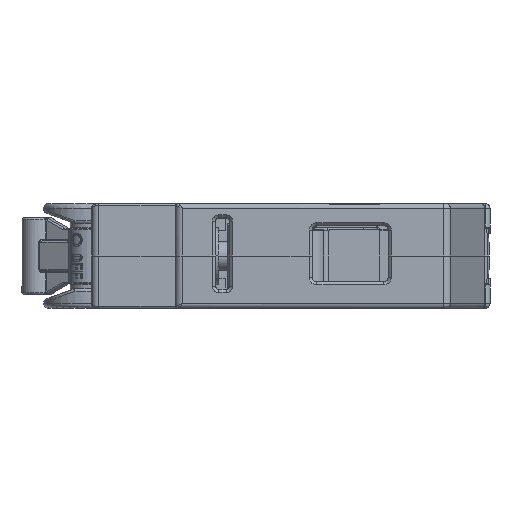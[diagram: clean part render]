
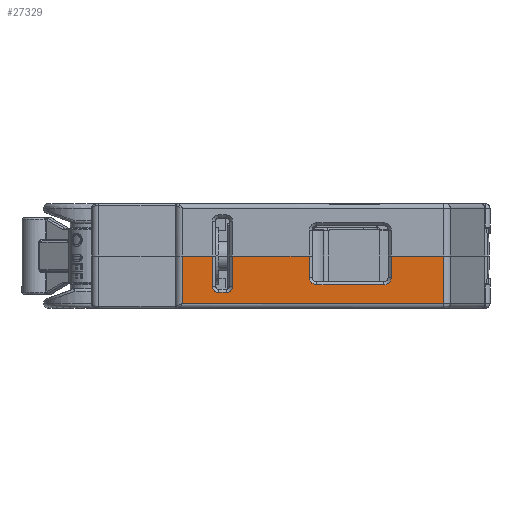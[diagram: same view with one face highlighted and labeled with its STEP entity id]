
A CAD part, left-side view. The second image highlights one B-rep face of the part: STEP entity #27329.
In plain terms, the highlighted planar face has unit normal (-1, 0, 0).
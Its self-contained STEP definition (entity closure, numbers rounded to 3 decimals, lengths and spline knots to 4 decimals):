
#9099=DIRECTION('',(0.,1.,0.));
#9100=VECTOR('',#9099,0.199);
#9101=CARTESIAN_POINT('',(-1.73,-0.056,0.));
#9102=LINE('',#9101,#9100);
#9347=DIRECTION('',(0.,1.,0.));
#9348=VECTOR('',#9347,0.505);
#9349=CARTESIAN_POINT('',(-1.73,-0.691,0.));
#9350=LINE('',#9349,#9348);
#9501=DIRECTION('',(0.,1.,0.));
#9502=VECTOR('',#9501,0.3436);
#9503=CARTESIAN_POINT('',(-1.73,-1.5746,0.));
#9504=LINE('',#9503,#9502);
#9683=DIRECTION('',(0.,0.,1.));
#9684=VECTOR('',#9683,0.139);
#9685=CARTESIAN_POINT('',(-1.73,-0.691,
-0.139));
#9686=LINE('',#9685,#9684);
#9687=CARTESIAN_POINT('',(-1.73,-0.742,-0.139));
#9688=DIRECTION('',(1.,0.,0.));
#9689=DIRECTION('',(0.,0.,-1.));
#9690=AXIS2_PLACEMENT_3D('',#9687,#9688,#9689);
#9692=DIRECTION('',(0.,1.,0.));
#9693=VECTOR('',#9692,0.438);
#9694=CARTESIAN_POINT('',(-1.73,-1.18,
-0.19));
#9695=LINE('',#9694,#9693);
#9696=CARTESIAN_POINT('',(-1.73,-1.18,-0.139));
#9697=DIRECTION('',(1.,0.,0.));
#9698=DIRECTION('',(0.,-1.,0.));
#9699=AXIS2_PLACEMENT_3D('',#9696,#9697,#9698);
#9701=DIRECTION('',(0.,0.,-1.));
#9702=VECTOR('',#9701,0.139);
#9703=CARTESIAN_POINT('',(-1.73,-1.231,0.));
#9704=LINE('',#9703,#9702);
#9705=DIRECTION('',(0.,0.,1.));
#9706=VECTOR('',#9705,0.313);
#9707=CARTESIAN_POINT('',(-1.73,-1.5746,-0.313));
#9708=LINE('',#9707,#9706);
#9709=DIRECTION('',(0.,1.,0.));
#9710=VECTOR('',#9709,1.7176);
#9711=CARTESIAN_POINT('',(-1.73,-1.5746,-0.313));
#9712=LINE('',#9711,#9710);
#9713=DIRECTION('',(0.,0.,-1.));
#9714=VECTOR('',#9713,0.313);
#9715=CARTESIAN_POINT('',(-1.73,0.143,0.));
#9716=LINE('',#9715,#9714);
#9717=DIRECTION('',(0.,0.,1.));
#9718=VECTOR('',#9717,0.2);
#9719=CARTESIAN_POINT('',(-1.73,-0.056,
-0.2));
#9720=LINE('',#9719,#9718);
#9721=CARTESIAN_POINT('',(-1.73,-0.096,-0.2));
#9722=DIRECTION('',(1.,0.,0.));
#9723=DIRECTION('',(0.,0.,-1.));
#9724=AXIS2_PLACEMENT_3D('',#9721,#9722,#9723);
#9726=DIRECTION('',(0.,1.,0.));
#9727=VECTOR('',#9726,0.05);
#9728=CARTESIAN_POINT('',(-1.73,-0.146,
-0.24));
#9729=LINE('',#9728,#9727);
#9730=CARTESIAN_POINT('',(-1.73,-0.146,-0.2));
#9731=DIRECTION('',(1.,0.,0.));
#9732=DIRECTION('',(0.,-1.,0.));
#9733=AXIS2_PLACEMENT_3D('',#9730,#9731,#9732);
#9735=DIRECTION('',(0.,0.,-1.));
#9736=VECTOR('',#9735,0.2);
#9737=CARTESIAN_POINT('',(-1.73,-0.186,0.));
#9738=LINE('',#9737,#9736);
#16154=CARTESIAN_POINT('',(-1.73,0.143,0.));
#16156=VERTEX_POINT('',#16154);
#16157=CARTESIAN_POINT('',(-1.73,0.143,-0.313));
#16158=VERTEX_POINT('',#16157);
#16163=CARTESIAN_POINT('',(-1.73,-1.5746,-0.313));
#16164=VERTEX_POINT('',#16163);
#16223=CARTESIAN_POINT('',(-1.73,-1.5746,0.));
#16225=VERTEX_POINT('',#16223);
#16235=CARTESIAN_POINT('',(-1.73,-0.056,
-0.2));
#16236=CARTESIAN_POINT('',(-1.73,-0.056,0.));
#16237=VERTEX_POINT('',#16235);
#16238=VERTEX_POINT('',#16236);
#16239=CARTESIAN_POINT('',(-1.73,-0.096,-0.24));
#16240=VERTEX_POINT('',#16239);
#16241=CARTESIAN_POINT('',(-1.73,-0.146,
-0.24));
#16242=VERTEX_POINT('',#16241);
#16243=CARTESIAN_POINT('',(-1.73,-0.186,-0.2));
#16244=VERTEX_POINT('',#16243);
#16246=CARTESIAN_POINT('',(-1.73,-0.186,0.));
#16248=VERTEX_POINT('',#16246);
#16290=CARTESIAN_POINT('',(-1.73,-0.691,
-0.139));
#16291=CARTESIAN_POINT('',(-1.73,-0.691,0.));
#16292=VERTEX_POINT('',#16290);
#16293=VERTEX_POINT('',#16291);
#16294=CARTESIAN_POINT('',(-1.73,-0.742,-0.19));
#16295=VERTEX_POINT('',#16294);
#16296=CARTESIAN_POINT('',(-1.73,-1.18,
-0.19));
#16297=VERTEX_POINT('',#16296);
#16302=CARTESIAN_POINT('',(-1.73,-1.231,-0.139));
#16303=VERTEX_POINT('',#16302);
#16304=CARTESIAN_POINT('',(-1.73,-1.231,0.));
#16305=VERTEX_POINT('',#16304);
#27293=CARTESIAN_POINT('',(-1.73,0.19,0.));
#27294=DIRECTION('',(-1.,0.,0.));
#27295=DIRECTION('',(0.,-1.,0.));
#27296=AXIS2_PLACEMENT_3D('',#27293,#27294,#27295);
#27297=PLANE('',#27296);
#27299=ORIENTED_EDGE('',*,*,#27298,.F.);
#27301=ORIENTED_EDGE('',*,*,#27300,.F.);
#27303=ORIENTED_EDGE('',*,*,#27302,.F.);
#27305=ORIENTED_EDGE('',*,*,#27304,.F.);
#27307=ORIENTED_EDGE('',*,*,#27306,.F.);
#27308=ORIENTED_EDGE('',*,*,#27090,.F.);
#27310=ORIENTED_EDGE('',*,*,#27309,.F.);
#27312=ORIENTED_EDGE('',*,*,#27311,.T.);
#27314=ORIENTED_EDGE('',*,*,#27313,.F.);
#27315=ORIENTED_EDGE('',*,*,#26862,.F.);
#27317=ORIENTED_EDGE('',*,*,#27316,.F.);
#27319=ORIENTED_EDGE('',*,*,#27318,.F.);
#27321=ORIENTED_EDGE('',*,*,#27320,.F.);
#27323=ORIENTED_EDGE('',*,*,#27322,.F.);
#27325=ORIENTED_EDGE('',*,*,#27324,.F.);
#27326=ORIENTED_EDGE('',*,*,#27000,.F.);
#27327=EDGE_LOOP('',(#27299,#27301,#27303,#27305,#27307,#27308,#27310,#27312,
#27314,#27315,#27317,#27319,#27321,#27323,#27325,#27326));
#27328=FACE_OUTER_BOUND('',#27327,.F.);
#27329=ADVANCED_FACE('',(#27328),#27297,.T.);
#9691=CIRCLE('',#9690,0.051);
#9700=CIRCLE('',#9699,0.051);
#9725=CIRCLE('',#9724,0.04);
#9734=CIRCLE('',#9733,0.04);
#26862=EDGE_CURVE('',#16238,#16156,#9102,.T.);
#27000=EDGE_CURVE('',#16293,#16248,#9350,.T.);
#27090=EDGE_CURVE('',#16225,#16305,#9504,.T.);
#27298=EDGE_CURVE('',#16292,#16293,#9686,.T.);
#27300=EDGE_CURVE('',#16295,#16292,#9691,.T.);
#27302=EDGE_CURVE('',#16297,#16295,#9695,.T.);
#27304=EDGE_CURVE('',#16303,#16297,#9700,.T.);
#27306=EDGE_CURVE('',#16305,#16303,#9704,.T.);
#27309=EDGE_CURVE('',#16164,#16225,#9708,.T.);
#27311=EDGE_CURVE('',#16164,#16158,#9712,.T.);
#27313=EDGE_CURVE('',#16156,#16158,#9716,.T.);
#27316=EDGE_CURVE('',#16237,#16238,#9720,.T.);
#27318=EDGE_CURVE('',#16240,#16237,#9725,.T.);
#27320=EDGE_CURVE('',#16242,#16240,#9729,.T.);
#27322=EDGE_CURVE('',#16244,#16242,#9734,.T.);
#27324=EDGE_CURVE('',#16248,#16244,#9738,.T.);
